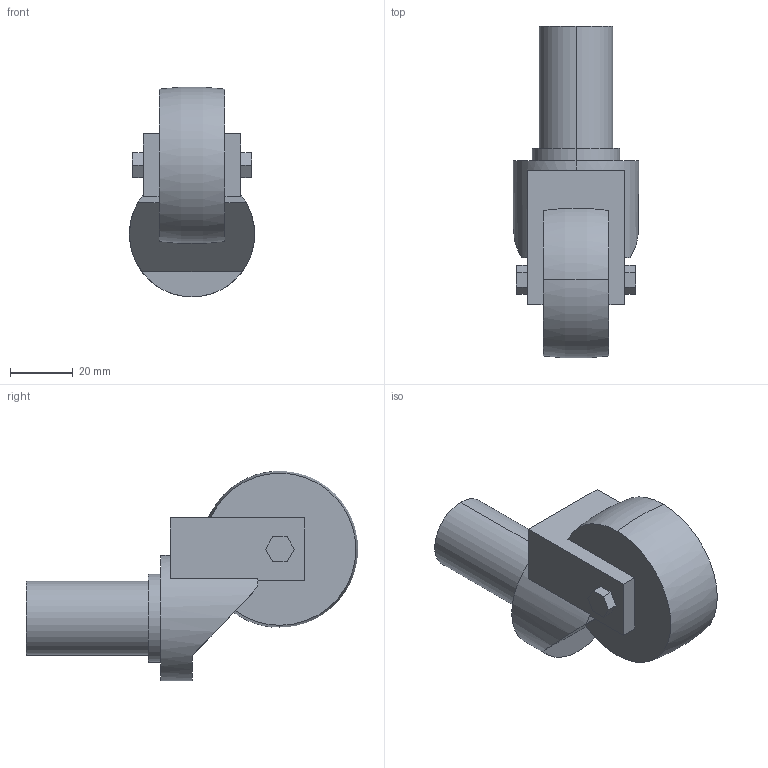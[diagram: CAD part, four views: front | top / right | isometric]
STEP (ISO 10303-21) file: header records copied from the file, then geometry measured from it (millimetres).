
FILE_DESCRIPTION (( 'STEP AP214' ), '1' );
FILE_NAME ('SGR50 TP.step', '2024-02-15T04:35:57', ( 'catia' ), ( 'HP Inc.' ), 'SwSTEP 2.0', 'SolidWorks 2021', '' );
FILE_SCHEMA (( 'AUTOMOTIVE_DESIGN' ));
Length unit declared in the file: millimetre
Products named in the file (1): SGR50 TP
Bounding box: 40 x 105.92 x 66.92 mm (x, y, z)
Volume: 92994.5 mm3; surface area: 15430.1 mm2
Topology: 1 solids, 1 shells, 40 faces, 102 edges, 68 vertices
Faces by surface type: plane 31, cylinder 6, torus 3
Entity records: 1251 total; most frequent: CARTESIAN_POINT 228, ORIENTED_EDGE 204, DIRECTION 204, EDGE_CURVE 102, LINE 74, VECTOR 74, VERTEX_POINT 68, AXIS2_PLACEMENT_3D 65
